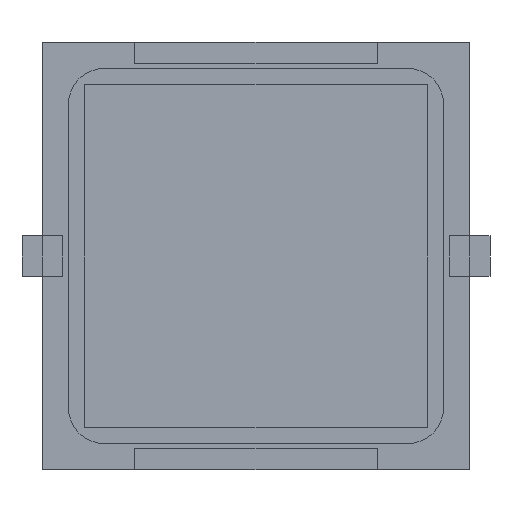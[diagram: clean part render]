
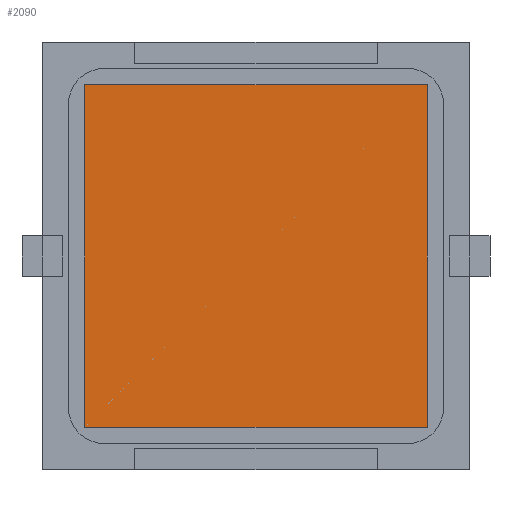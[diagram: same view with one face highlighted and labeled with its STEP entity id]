
A CAD part, front view. The second image highlights one B-rep face of the part: STEP entity #2090.
In plain terms, the highlighted planar face has unit normal (0, -1, 0).
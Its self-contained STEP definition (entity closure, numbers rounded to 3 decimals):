
#102 = CARTESIAN_POINT ( 'NONE',  ( 8.5, -0.1, -8.5 ) ) ;
#255 = CARTESIAN_POINT ( 'NONE',  ( -8.5, -0.1, 8.5 ) ) ;
#463 = VERTEX_POINT ( 'NONE', #4447 ) ;
#1036 = CARTESIAN_POINT ( 'NONE',  ( -8.5, -0.1, 8.5 ) ) ;
#1061 = VECTOR ( 'NONE', #1464, 1000. ) ;
#1464 = DIRECTION ( 'NONE',  ( 0., 0., 1. ) ) ;
#1775 = LINE ( 'NONE', #2545, #1061 ) ;
#1848 = VERTEX_POINT ( 'NONE', #4202 ) ;
#1991 = DIRECTION ( 'NONE',  ( 0., 1., 0. ) ) ;
#2090 = ADVANCED_FACE ( 'NONE', ( #2572 ), #2214, .F. ) ;
#2214 = PLANE ( 'NONE',  #3430 ) ;
#2261 = EDGE_CURVE ( 'NONE', #463, #3882, #4490, .T. ) ;
#2531 = DIRECTION ( 'NONE',  ( 1., 0., 0. ) ) ;
#2545 = CARTESIAN_POINT ( 'NONE',  ( -8.5, -0.1, -8.5 ) ) ;
#2572 = FACE_OUTER_BOUND ( 'NONE', #2692, .T. ) ;
#2692 = EDGE_LOOP ( 'NONE', ( #3224, #3226, #3782, #2729 ) ) ;
#2729 = ORIENTED_EDGE ( 'NONE', *, *, #3087, .F. ) ;
#3078 = VERTEX_POINT ( 'NONE', #255 ) ;
#3087 = EDGE_CURVE ( 'NONE', #3078, #463, #4739, .T. ) ;
#3120 = VECTOR ( 'NONE', #3712, 1000. ) ;
#3123 = CARTESIAN_POINT ( 'NONE',  ( -8.5, -0.1, 8.5 ) ) ;
#3159 = VECTOR ( 'NONE', #4799, 1000. ) ;
#3224 = ORIENTED_EDGE ( 'NONE', *, *, #3380, .F. ) ;
#3226 = ORIENTED_EDGE ( 'NONE', *, *, #3348, .F. ) ;
#3313 = CARTESIAN_POINT ( 'NONE',  ( -8.5, -0.1, -8.5 ) ) ;
#3348 = EDGE_CURVE ( 'NONE', #3882, #1848, #3610, .T. ) ;
#3380 = EDGE_CURVE ( 'NONE', #1848, #3078, #1775, .T. ) ;
#3430 = AXIS2_PLACEMENT_3D ( 'NONE', #3123, #1991, #3468 ) ;
#3468 = DIRECTION ( 'NONE',  ( 0., 0., 1. ) ) ;
#3610 = LINE ( 'NONE', #3313, #3159 ) ;
#3712 = DIRECTION ( 'NONE',  ( 0., 0., -1. ) ) ;
#3782 = ORIENTED_EDGE ( 'NONE', *, *, #2261, .F. ) ;
#3882 = VERTEX_POINT ( 'NONE', #102 ) ;
#3939 = VECTOR ( 'NONE', #2531, 1000. ) ;
#4202 = CARTESIAN_POINT ( 'NONE',  ( -8.5, -0.1, -8.5 ) ) ;
#4447 = CARTESIAN_POINT ( 'NONE',  ( 8.5, -0.1, 8.5 ) ) ;
#4490 = LINE ( 'NONE', #4755, #3120 ) ;
#4739 = LINE ( 'NONE', #1036, #3939 ) ;
#4755 = CARTESIAN_POINT ( 'NONE',  ( 8.5, -0.1, -8.5 ) ) ;
#4799 = DIRECTION ( 'NONE',  ( -1., 0., 0. ) ) ;
